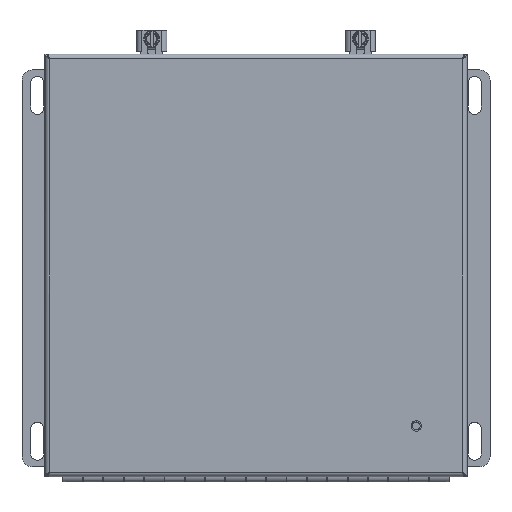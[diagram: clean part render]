
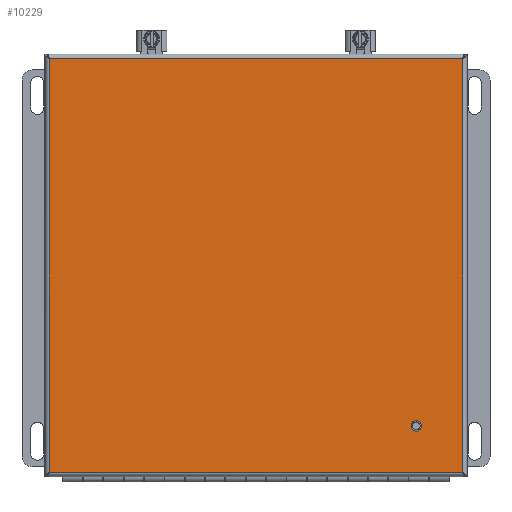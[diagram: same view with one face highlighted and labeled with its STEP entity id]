
A CAD part, top view. The second image highlights one B-rep face of the part: STEP entity #10229.
In plain terms, the highlighted planar face has unit normal (0, 0, 1) as drawn and (0, 0, -1) by its records, which use the part's own axes.
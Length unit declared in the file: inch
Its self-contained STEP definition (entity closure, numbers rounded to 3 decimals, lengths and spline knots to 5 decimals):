
#8698=DIRECTION('',(0.,-1.,0.));
#8699=VECTOR('',#8698,10.161);
#8700=CARTESIAN_POINT('',(10.263,-0.00827,0.));
#8701=LINE('',#8700,#8699);
#8733=CARTESIAN_POINT('',(1.25,-9.03127,0.));
#8734=DIRECTION('',(0.,0.,-1.));
#8735=DIRECTION('',(0.,-1.,0.));
#8736=AXIS2_PLACEMENT_3D('',#8733,#8734,#8735);
#8741=CARTESIAN_POINT('',(1.25,-9.03127,0.));
#8742=DIRECTION('',(0.,0.,-1.));
#8743=DIRECTION('',(0.,1.,0.));
#8744=AXIS2_PLACEMENT_3D('',#8741,#8742,#8743);
#9004=DIRECTION('',(1.,0.,0.));
#9005=VECTOR('',#9004,10.151);
#9006=CARTESIAN_POINT('',(0.112,-10.16927,0.));
#9007=LINE('',#9006,#9005);
#9060=DIRECTION('',(0.,-1.,0.));
#9061=VECTOR('',#9060,10.161);
#9062=CARTESIAN_POINT('',(0.112,-0.00827,0.));
#9063=LINE('',#9062,#9061);
#9264=DIRECTION('',(1.,0.,0.));
#9265=VECTOR('',#9264,10.151);
#9266=CARTESIAN_POINT('',(0.112,-0.00827,0.));
#9267=LINE('',#9266,#9265);
#9558=CARTESIAN_POINT('',(0.112,-0.00827,0.));
#9559=CARTESIAN_POINT('',(10.263,-0.00827,0.));
#9560=VERTEX_POINT('',#9558);
#9561=VERTEX_POINT('',#9559);
#9574=CARTESIAN_POINT('',(0.112,-10.16927,0.));
#9575=CARTESIAN_POINT('',(10.263,-10.16927,0.));
#9576=VERTEX_POINT('',#9574);
#9577=VERTEX_POINT('',#9575);
#9586=CARTESIAN_POINT('',(1.25,-9.12932,0.));
#9587=CARTESIAN_POINT('',(1.25,-8.93322,0.));
#9588=VERTEX_POINT('',#9586);
#9589=VERTEX_POINT('',#9587);
#10209=CARTESIAN_POINT('',(0.,0.10373,0.));
#10210=DIRECTION('',(0.,0.,-1.));
#10211=DIRECTION('',(1.,0.,0.));
#10212=AXIS2_PLACEMENT_3D('',#10209,#10210,#10211);
#10213=PLANE('',#10212);
#10214=ORIENTED_EDGE('',*,*,#10199,.F.);
#10216=ORIENTED_EDGE('',*,*,#10215,.F.);
#10218=ORIENTED_EDGE('',*,*,#10217,.T.);
#10220=ORIENTED_EDGE('',*,*,#10219,.T.);
#10221=EDGE_LOOP('',(#10214,#10216,#10218,#10220));
#10222=FACE_OUTER_BOUND('',#10221,.F.);
#10224=ORIENTED_EDGE('',*,*,#10223,.T.);
#10226=ORIENTED_EDGE('',*,*,#10225,.T.);
#10227=EDGE_LOOP('',(#10224,#10226));
#10228=FACE_BOUND('',#10227,.F.);
#8737=CIRCLE('',#8736,0.09805);
#8745=CIRCLE('',#8744,0.09805);
#10199=EDGE_CURVE('',#9561,#9577,#8701,.T.);
#10215=EDGE_CURVE('',#9560,#9561,#9267,.T.);
#10217=EDGE_CURVE('',#9560,#9576,#9063,.T.);
#10219=EDGE_CURVE('',#9576,#9577,#9007,.T.);
#10223=EDGE_CURVE('',#9588,#9589,#8737,.T.);
#10225=EDGE_CURVE('',#9589,#9588,#8745,.T.);
#10229=ADVANCED_FACE('',(#10222,#10228),#10213,.T.);
